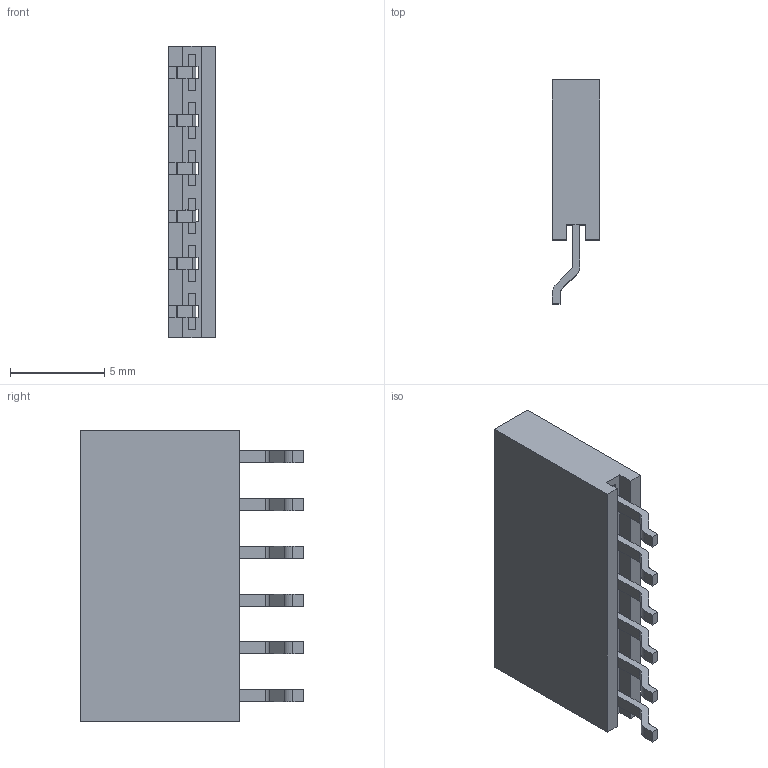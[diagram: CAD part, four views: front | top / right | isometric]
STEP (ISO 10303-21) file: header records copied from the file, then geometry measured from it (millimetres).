
FILE_DESCRIPTION(('STEP AP242'),'1');
FILE_NAME('m20-7910642r.stp','2026-04-25T15:50:44',('TraceParts'),('TraceParts S.A.S.'),'Spatial InterOp 3D',' ',' ');
FILE_SCHEMA(('AP242_MANAGED_MODEL_BASED_3D_ENGINEERING_MIM_LF {1 0 10303 442 1 1 4}'));
Length unit declared in the file: millimetre
Products named in the file (1): 1
Bounding box: 2.5 x 11.9 x 15.49 mm (x, y, z)
Volume: 299.9 mm3; surface area: 832.6 mm2
Topology: 7 solids, 7 shells, 292 faces, 792 edges, 520 vertices
Faces by surface type: plane 226, cylinder 66
Entity records: 9841 total; most frequent: CARTESIAN_POINT 1611, ORIENTED_EDGE 1584, DIRECTION 1522, EDGE_CURVE 792, LINE 660, VECTOR 660, VERTEX_POINT 520, AXIS2_PLACEMENT_3D 431
